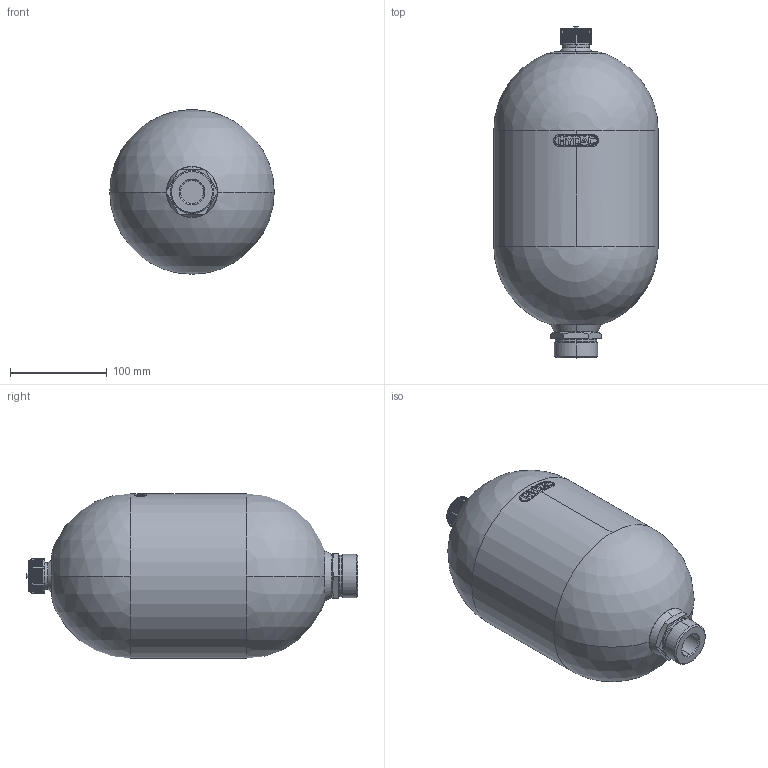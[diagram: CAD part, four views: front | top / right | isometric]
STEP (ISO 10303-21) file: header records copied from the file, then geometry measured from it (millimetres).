
FILE_DESCRIPTION (( 'STEP AP214' ), '1' );
FILE_NAME ('HYDAC-SBO250_3,5E1_AB.STEP', '2020-01-30T14:14:30', ( '' ), ( '' ), 'SwSTEP 2.0', 'SolidWorks 2019', '' );
FILE_SCHEMA (( 'AUTOMOTIVE_DESIGN' ));
Length unit declared in the file: millimetre
Products named in the file (1): HYDAC-SBO250_3,5E1_AB
Bounding box: 170 x 343.17 x 170 mm (x, y, z)
Volume: 5354570.6 mm3; surface area: 167054.6 mm2
Topology: 1 solids, 4 shells, 688 faces, 1943 edges, 1271 vertices
Faces by surface type: plane 513, cylinder 86, torus 31, cone 28, bspline 26, sphere 4
Entity records: 25956 total; most frequent: CARTESIAN_POINT 6515, ORIENTED_EDGE 3874, DIRECTION 3336, EDGE_CURVE 1937, VECTOR 1456, LINE 1456, VERTEX_POINT 1271, AXIS2_PLACEMENT_3D 940
